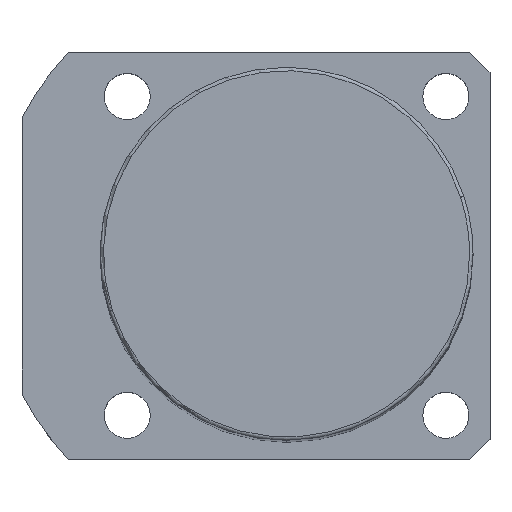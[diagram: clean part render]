
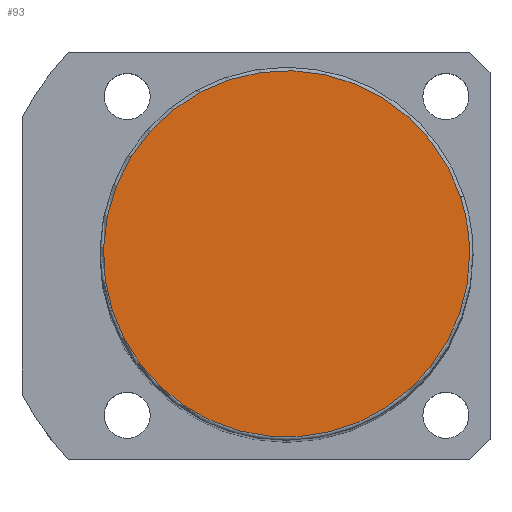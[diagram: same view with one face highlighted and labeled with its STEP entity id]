
A CAD part, top view. The second image highlights one B-rep face of the part: STEP entity #93.
In plain terms, the highlighted planar face has unit normal (0, 0, 1).
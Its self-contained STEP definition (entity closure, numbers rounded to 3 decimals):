
#16=CARTESIAN_POINT('',(25.679,8.343,186.0));
#17=VERTEX_POINT('',#16);
#45=CARTESIAN_POINT('',(-25.679,-8.343,186.0));
#46=VERTEX_POINT('',#45);
#54=CARTESIAN_POINT('',(0.0,0.0,186.0));
#55=DIRECTION('',(0.0,0.0,1.0));
#56=DIRECTION('',(1.0,0.0,0.0));
#57=AXIS2_PLACEMENT_3D('',#54,#55,#56);
#58=CIRCLE('',#57,27.0);
#59=EDGE_CURVE('no 890',#17,#46,#58,.T.);
#69=CARTESIAN_POINT('',(27.0,0.0,186.0));
#70=VERTEX_POINT('',#69);
#71=CARTESIAN_POINT('',(0.0,0.0,186.0));
#72=DIRECTION('',(0.0,0.0,1.0));
#73=DIRECTION('',(1.0,0.0,0.0));
#74=AXIS2_PLACEMENT_3D('',#71,#72,#73);
#75=CIRCLE('',#74,27.0);
#76=EDGE_CURVE('no 899',#70,#17,#75,.T.);
#77=ORIENTED_EDGE('',*,*,#76,.T.);
#78=ORIENTED_EDGE('',*,*,#59,.T.);
#79=CARTESIAN_POINT('',(0.0,0.0,186.0));
#80=DIRECTION('',(0.0,0.0,1.0));
#81=DIRECTION('',(1.0,0.0,0.0));
#82=AXIS2_PLACEMENT_3D('',#79,#80,#81);
#83=CIRCLE('',#82,27.0);
#84=EDGE_CURVE('no 905',#46,#70,#83,.T.);
#85=ORIENTED_EDGE('',*,*,#84,.T.);
#86=EDGE_LOOP('',(#77,#78,#85));
#87=FACE_OUTER_BOUND('',#86,.T.);
#88=CARTESIAN_POINT('',(0.0,0.0,186.0));
#89=DIRECTION('',(0.0,0.0,1.0));
#90=DIRECTION('',(1.0,0.0,0.0));
#91=AXIS2_PLACEMENT_3D('',#88,#89,#90);
#92=PLANE('',#91);
#93=ADVANCED_FACE('no 892',(#87),#92,.T.);
